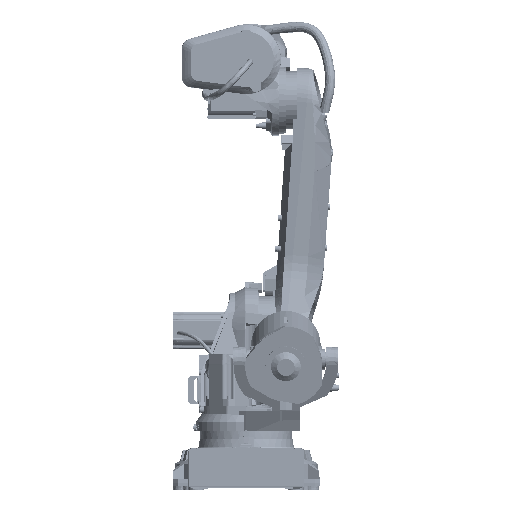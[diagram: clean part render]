
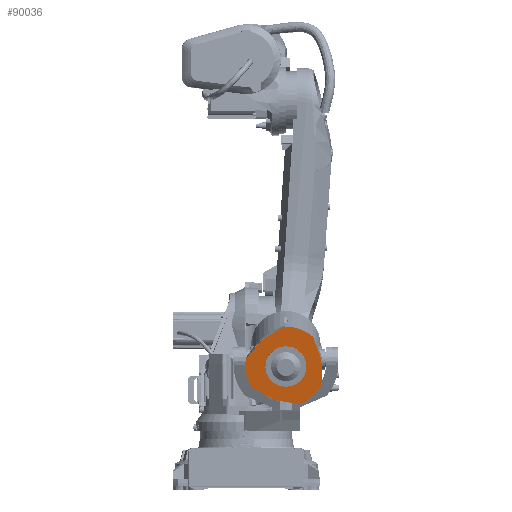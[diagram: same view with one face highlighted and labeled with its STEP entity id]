
A CAD part, left-side view. The second image highlights one B-rep face of the part: STEP entity #90036.
In plain terms, the highlighted planar face has unit normal (-0.978, 0, -0.208).
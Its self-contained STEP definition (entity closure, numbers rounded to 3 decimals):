
#551=PLANE('',#95819);
#6700=LINE('',#130046,#14839);
#6701=LINE('',#130053,#14840);
#6702=LINE('',#130055,#14841);
#6703=LINE('',#130063,#14842);
#6704=LINE('',#130067,#14843);
#6705=LINE('',#130074,#14844);
#14839=VECTOR('',#104546,1000.);
#14840=VECTOR('',#104553,1000.);
#14841=VECTOR('',#104554,1000.);
#14842=VECTOR('',#104561,1000.);
#14843=VECTOR('',#104564,1000.);
#14844=VECTOR('',#104571,1000.);
#22966=FACE_BOUND('',#29499,.T.);
#24107=FACE_OUTER_BOUND('',#29498,.T.);
#29498=EDGE_LOOP('',(#61510,#61511,#61512,#61513,#61514,#61515,#61516,#61517,
#61518,#61519,#61520,#61521,#61522,#61523,#61524,#61525,#61526,#61527));
#29499=EDGE_LOOP('',(#61528));
#35890=CIRCLE('',#95713,175.);
#35892=CIRCLE('',#95716,100.);
#35930=CIRCLE('',#95820,175.);
#35931=CIRCLE('',#95821,10.);
#35932=CIRCLE('',#95822,199.);
#35933=CIRCLE('',#95823,10.);
#35934=CIRCLE('',#95824,10.);
#35935=CIRCLE('',#95825,199.);
#35936=CIRCLE('',#95826,10.);
#35937=CIRCLE('',#95827,175.);
#35938=CIRCLE('',#95828,10.);
#35939=CIRCLE('',#95829,199.);
#35940=CIRCLE('',#95830,10.);
#38875=VERTEX_POINT('',#129558);
#38876=VERTEX_POINT('',#129559);
#38879=VERTEX_POINT('',#129567);
#38966=VERTEX_POINT('',#130042);
#38967=VERTEX_POINT('',#130043);
#38968=VERTEX_POINT('',#130045);
#38969=VERTEX_POINT('',#130047);
#38970=VERTEX_POINT('',#130049);
#38971=VERTEX_POINT('',#130051);
#38972=VERTEX_POINT('',#130054);
#38973=VERTEX_POINT('',#130056);
#38974=VERTEX_POINT('',#130058);
#38975=VERTEX_POINT('',#130060);
#38976=VERTEX_POINT('',#130062);
#38977=VERTEX_POINT('',#130064);
#38978=VERTEX_POINT('',#130066);
#38979=VERTEX_POINT('',#130068);
#38980=VERTEX_POINT('',#130070);
#38981=VERTEX_POINT('',#130072);
#47899=EDGE_CURVE('',#38875,#38876,#35890,.T.);
#47903=EDGE_CURVE('',#38879,#38879,#35892,.T.);
#48017=EDGE_CURVE('',#38966,#38967,#35930,.T.);
#48018=EDGE_CURVE('',#38967,#38968,#6700,.T.);
#48019=EDGE_CURVE('',#38968,#38969,#35931,.T.);
#48020=EDGE_CURVE('',#38969,#38970,#35932,.T.);
#48021=EDGE_CURVE('',#38970,#38971,#35933,.T.);
#48022=EDGE_CURVE('',#38971,#38875,#6701,.T.);
#48023=EDGE_CURVE('',#38876,#38972,#6702,.T.);
#48024=EDGE_CURVE('',#38972,#38973,#35934,.T.);
#48025=EDGE_CURVE('',#38973,#38974,#35935,.T.);
#48026=EDGE_CURVE('',#38974,#38975,#35936,.T.);
#48027=EDGE_CURVE('',#38975,#38976,#6703,.T.);
#48028=EDGE_CURVE('',#38976,#38977,#35937,.T.);
#48029=EDGE_CURVE('',#38977,#38978,#6704,.T.);
#48030=EDGE_CURVE('',#38978,#38979,#35938,.T.);
#48031=EDGE_CURVE('',#38979,#38980,#35939,.T.);
#48032=EDGE_CURVE('',#38980,#38981,#35940,.T.);
#48033=EDGE_CURVE('',#38981,#38966,#6705,.T.);
#61510=ORIENTED_EDGE('',*,*,#48017,.T.);
#61511=ORIENTED_EDGE('',*,*,#48018,.T.);
#61512=ORIENTED_EDGE('',*,*,#48019,.T.);
#61513=ORIENTED_EDGE('',*,*,#48020,.T.);
#61514=ORIENTED_EDGE('',*,*,#48021,.T.);
#61515=ORIENTED_EDGE('',*,*,#48022,.T.);
#61516=ORIENTED_EDGE('',*,*,#47899,.T.);
#61517=ORIENTED_EDGE('',*,*,#48023,.T.);
#61518=ORIENTED_EDGE('',*,*,#48024,.T.);
#61519=ORIENTED_EDGE('',*,*,#48025,.T.);
#61520=ORIENTED_EDGE('',*,*,#48026,.T.);
#61521=ORIENTED_EDGE('',*,*,#48027,.T.);
#61522=ORIENTED_EDGE('',*,*,#48028,.T.);
#61523=ORIENTED_EDGE('',*,*,#48029,.T.);
#61524=ORIENTED_EDGE('',*,*,#48030,.T.);
#61525=ORIENTED_EDGE('',*,*,#48031,.T.);
#61526=ORIENTED_EDGE('',*,*,#48032,.T.);
#61527=ORIENTED_EDGE('',*,*,#48033,.T.);
#61528=ORIENTED_EDGE('',*,*,#47903,.T.);
#90036=ADVANCED_FACE('',(#24107,#22966),#551,.T.);
#95713=AXIS2_PLACEMENT_3D('',#129560,#104290,#104291);
#95716=AXIS2_PLACEMENT_3D('',#129568,#104298,#104299);
#95819=AXIS2_PLACEMENT_3D('',#130041,#104542,#104543);
#95820=AXIS2_PLACEMENT_3D('',#130044,#104544,#104545);
#95821=AXIS2_PLACEMENT_3D('',#130048,#104547,#104548);
#95822=AXIS2_PLACEMENT_3D('',#130050,#104549,#104550);
#95823=AXIS2_PLACEMENT_3D('',#130052,#104551,#104552);
#95824=AXIS2_PLACEMENT_3D('',#130057,#104555,#104556);
#95825=AXIS2_PLACEMENT_3D('',#130059,#104557,#104558);
#95826=AXIS2_PLACEMENT_3D('',#130061,#104559,#104560);
#95827=AXIS2_PLACEMENT_3D('',#130065,#104562,#104563);
#95828=AXIS2_PLACEMENT_3D('',#130069,#104565,#104566);
#95829=AXIS2_PLACEMENT_3D('',#130071,#104567,#104568);
#95830=AXIS2_PLACEMENT_3D('',#130073,#104569,#104570);
#104290=DIRECTION('center_axis',(-0.978,0.,
-0.208));
#104291=DIRECTION('ref_axis',(-0.195,-0.342,0.919));
#104298=DIRECTION('center_axis',(0.978,0.,
0.208));
#104299=DIRECTION('ref_axis',(0.,-1.,0.));
#104542=DIRECTION('center_axis',(-0.978,0.,
-0.208));
#104543=DIRECTION('ref_axis',(-0.195,-0.342,0.919));
#104544=DIRECTION('center_axis',(-0.978,0.,
-0.208));
#104545=DIRECTION('ref_axis',(-0.195,-0.342,0.919));
#104546=DIRECTION('',(0.16,0.64,-0.752));
#104547=DIRECTION('center_axis',(-0.978,0.,
-0.208));
#104548=DIRECTION('ref_axis',(0.195,0.342,-0.919));
#104549=DIRECTION('center_axis',(-0.978,0.,
-0.208));
#104550=DIRECTION('ref_axis',(-0.195,-0.342,0.919));
#104551=DIRECTION('center_axis',(-0.978,0.,
-0.208));
#104552=DIRECTION('ref_axis',(0.195,0.342,-0.919));
#104553=DIRECTION('',(0.105,-0.864,-0.492));
#104554=DIRECTION('',(0.035,-0.985,-0.166));
#104555=DIRECTION('center_axis',(-0.978,0.,
-0.208));
#104556=DIRECTION('ref_axis',(0.195,0.342,-0.919));
#104557=DIRECTION('center_axis',(-0.978,0.,
-0.208));
#104558=DIRECTION('ref_axis',(-0.195,-0.342,0.919));
#104559=DIRECTION('center_axis',(-0.978,0.,
-0.208));
#104560=DIRECTION('ref_axis',(-0.195,-0.342,0.919));
#104561=DIRECTION('',(-0.208,-0.004,0.978));
#104562=DIRECTION('center_axis',(-0.978,0.,
-0.208));
#104563=DIRECTION('ref_axis',(-0.195,-0.342,0.919));
#104564=DIRECTION('',(-0.195,0.345,0.918));
#104565=DIRECTION('center_axis',(-0.978,0.,
-0.208));
#104566=DIRECTION('ref_axis',(-0.195,-0.342,0.919));
#104567=DIRECTION('center_axis',(-0.978,0.,
-0.208));
#104568=DIRECTION('ref_axis',(-0.195,-0.342,0.919));
#104569=DIRECTION('center_axis',(-0.978,0.,
-0.208));
#104570=DIRECTION('ref_axis',(0.195,0.342,-0.919));
#104571=DIRECTION('',(0.103,0.868,-0.486));
#129558=CARTESIAN_POINT('',(-475.513,-105.961,456.28));
#129559=CARTESIAN_POINT('',(-471.103,-164.225,435.537));
#129560=CARTESIAN_POINT('Origin',(-506.959,-194.,604.216));
#129567=CARTESIAN_POINT('',(-486.483,-211.365,507.888));
#129568=CARTESIAN_POINT('Origin',(-506.959,-194.,604.216));
#130041=CARTESIAN_POINT('Origin',(-506.959,-194.,604.216));
#130042=CARTESIAN_POINT('',(-538.536,-107.04,752.762));
#130043=CARTESIAN_POINT('',(-530.249,-59.543,713.778));
#130044=CARTESIAN_POINT('Origin',(-506.959,-194.,604.216));
#130045=CARTESIAN_POINT('',(-515.524,-0.546,644.507));
#130046=CARTESIAN_POINT('',(-530.249,-59.543,713.778));
#130047=CARTESIAN_POINT('',(-514.576,1.6,640.047));
#130048=CARTESIAN_POINT('Origin',(-514.193,-8.23,638.246));
#130049=CARTESIAN_POINT('',(-485.893,-22.725,505.11));
#130050=CARTESIAN_POINT('Origin',(-506.959,-194.,604.216));
#130051=CARTESIAN_POINT('',(-485.154,-26.301,501.637));
#130052=CARTESIAN_POINT('Origin',(-486.951,-31.332,510.09));
#130053=CARTESIAN_POINT('',(-485.154,-26.301,501.637));
#130054=CARTESIAN_POINT('',(-467.843,-255.055,420.197));
#130055=CARTESIAN_POINT('',(-467.843,-255.055,420.197));
#130056=CARTESIAN_POINT('',(-467.93,-260.077,420.609));
#130057=CARTESIAN_POINT('Origin',(-469.891,-256.756,429.836));
#130058=CARTESIAN_POINT('',(-486.652,-367.384,508.683));
#130059=CARTESIAN_POINT('Origin',(-506.959,-194.,604.216));
#130060=CARTESIAN_POINT('',(-487.665,-368.671,513.449));
#130061=CARTESIAN_POINT('Origin',(-487.672,-358.671,513.483));
#130062=CARTESIAN_POINT('',(-506.83,-368.999,603.607));
#130063=CARTESIAN_POINT('',(-506.83,-368.999,603.607));
#130064=CARTESIAN_POINT('',(-519.526,-358.232,663.334));
#130065=CARTESIAN_POINT('Origin',(-506.959,-194.,604.216));
#130066=CARTESIAN_POINT('',(-537.512,-326.399,747.946));
#130067=CARTESIAN_POINT('',(-519.526,-358.232,663.334));
#130068=CARTESIAN_POINT('',(-538.372,-323.523,751.993));
#130069=CARTESIAN_POINT('Origin',(-536.794,-317.014,744.567));
#130070=CARTESIAN_POINT('',(-548.334,-191.891,798.856));
#130071=CARTESIAN_POINT('Origin',(-506.959,-194.,604.216));
#130072=CARTESIAN_POINT('',(-548.059,-187.028,797.564));
#130073=CARTESIAN_POINT('Origin',(-546.255,-191.997,789.075));
#130074=CARTESIAN_POINT('',(-538.536,-107.04,752.762));
